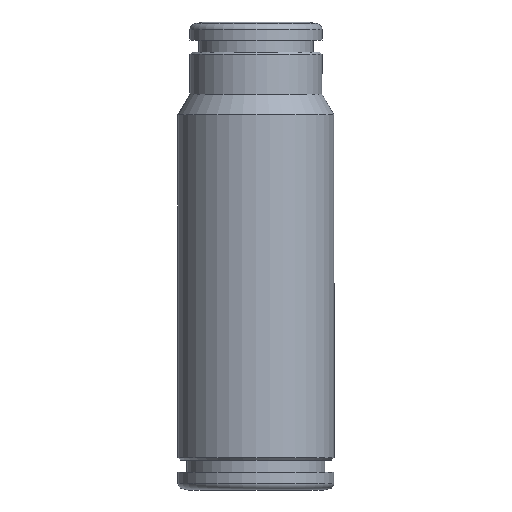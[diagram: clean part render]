
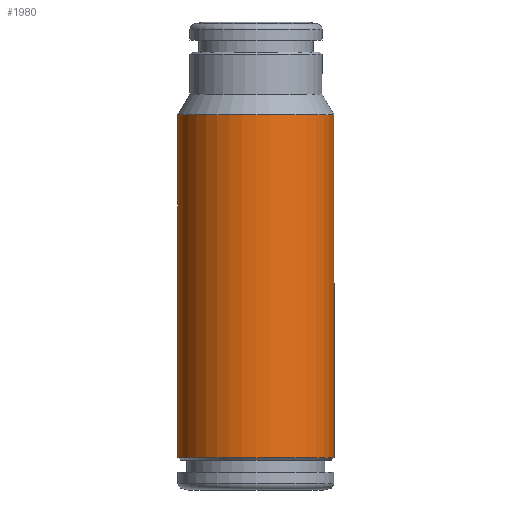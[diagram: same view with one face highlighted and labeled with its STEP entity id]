
A CAD part, front view. The second image highlights one B-rep face of the part: STEP entity #1980.
In plain terms, the highlighted cylindrical face has radius 6.5 mm (diameter 13 mm), a full revolution.
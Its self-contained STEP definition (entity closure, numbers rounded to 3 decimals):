
#1980=ADVANCED_FACE('', (#1990,#2000), #2010, .T.);
#5120=AXIS2_PLACEMENT_3D('Ax2Pl3d', #5130, #5140, #5150);
#6000=AXIS2_PLACEMENT_3D('Ax2Pl3d', #6010, #6020, #6030);
#6040=AXIS2_PLACEMENT_3D('Ax2Pl3d', #6050, #6060, #6070);
#5130=CARTESIAN_POINT('HicPkt', (7.972,8.115,
31.746));
#6550=CARTESIAN_POINT('', (1.472,8.115,31.746));
#6010=CARTESIAN_POINT('HicPkt', (7.972,8.115,
3.178));
#6050=CARTESIAN_POINT('HicPkt', (7.972,8.115,
3.178));
#6660=CARTESIAN_POINT('', (14.472,8.115,3.178));
#7030=CIRCLE('Circle', #5120, 6.5);
#7140=CIRCLE('Circle', #6040, 6.5);
#2010=CYLINDRICAL_SURFACE('Zyl', #6000, 6.5);
#5140=DIRECTION('Axis', (0.,0.,-1.));
#5150=DIRECTION('RefDirection', (-1.,-0.,0.));
#6020=DIRECTION('Axis', (0.,0.,1.));
#6030=DIRECTION('RefDirection', (1.,0.,-0.));
#6060=DIRECTION('Axis', (0.,0.,-1.));
#6070=DIRECTION('RefDirection', (-1.,-0.,0.));
#9460=EDGE_CURVE('', #9470, #9470, #7030, .T.);
#9680=EDGE_CURVE('', #9690, #9690, #7140, .T.);
#11540=EDGE_LOOP('Edge_loop', (#11550));
#11560=EDGE_LOOP('Edge_loop', (#11570));
#2000=FACE_BOUND('', #11560, .T.);
#1990=FACE_OUTER_BOUND('Face_outer_bound', #11540, .T.);
#11550=ORIENTED_EDGE('', *, *, #9460, .T.);
#11570=ORIENTED_EDGE('', *, *, #9680, .F.);
#9470=VERTEX_POINT('', #6550);
#9690=VERTEX_POINT('', #6660);
